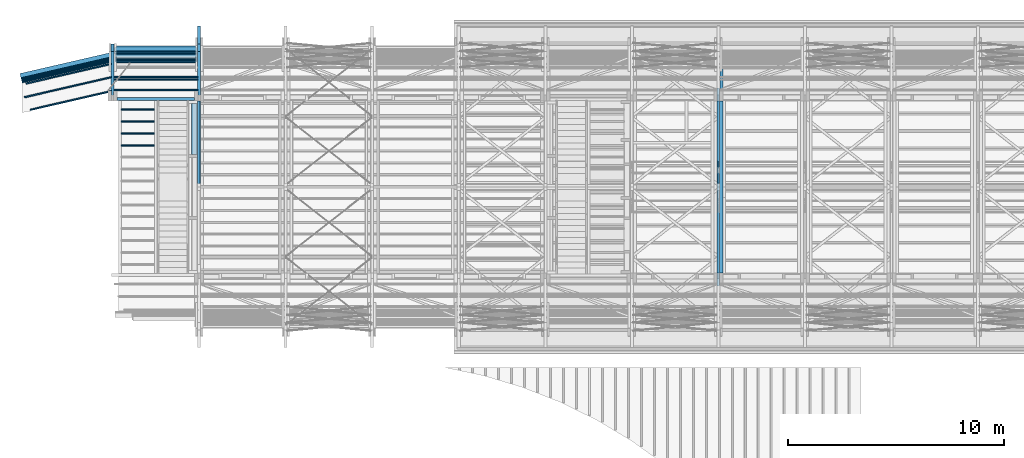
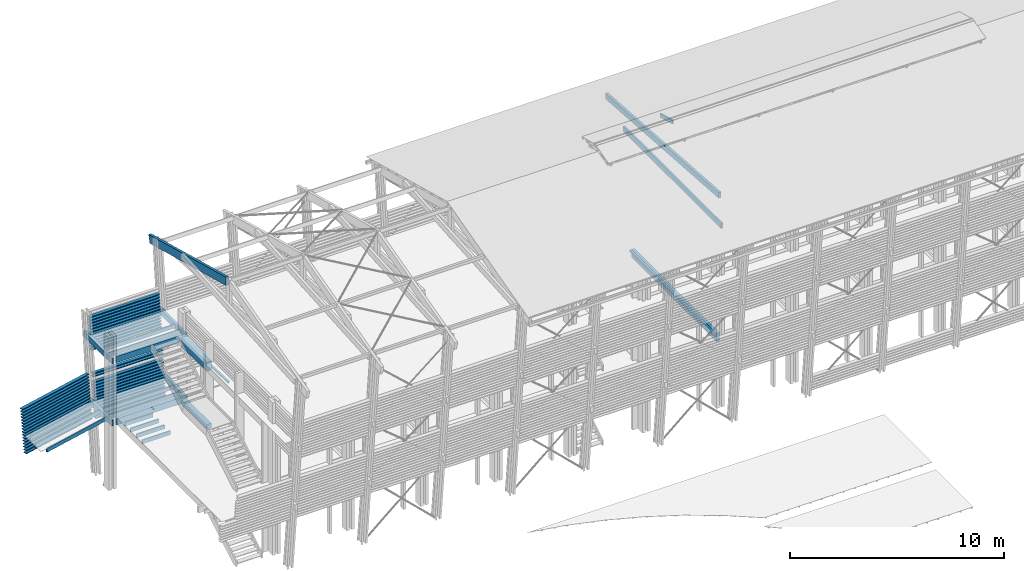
# One storey, part 11 of 48: 69 beams.
"""IFC2X3 building model written with IfcOpenShell, lengths in metres."""

from ifc_helpers import new_model, si_unit, direction, frame, origin_with_axes, place, context, subcontext, project, spatial, faceted_brep, material, element, save


model = new_model("IFC2X3")

# Units and contexts
model_context = context("Model", 3, precision=1e-06, world=origin_with_axes(), true_north=direction((0.0, 1.0, 0.0)))
body_context = subcontext(model_context, "Body", "Model", "MODEL_VIEW")
ifc_project = project(units=[si_unit("LENGTHUNIT", "METRE"), si_unit("AREAUNIT", "SQUARE_METRE"), si_unit("VOLUMEUNIT", "CUBIC_METRE"), si_unit("PLANEANGLEUNIT", "RADIAN")], contexts=[model_context])

# Site, building, storey
site_placement = place(None, origin_with_axes())
site = spatial("IfcSite", under=ifc_project, at=site_placement, CompositionType="ELEMENT")
building_placement = place(site_placement, origin_with_axes())
building = spatial("IfcBuilding", under=site, at=building_placement, Name="Building 1", CompositionType="ELEMENT")
storey_placement = place(building_placement, origin_with_axes())
storey = spatial("IfcBuildingStorey", under=building, at=storey_placement, Name="Storey 1", CompositionType="ELEMENT", Elevation=0.0)

# Beams
ifc_material_1 = material(Name="Moabi")
beam_1_placement = place(storey_placement, frame((25.3927439, -183.1715493, 5.1686208), z_axis=(0.0, -0.9945219, 0.1045285), x_axis=(-1.0, 0.0, 0.0)))
element("IfcBeam", 1, at=beam_1_placement, inside=storey, material=ifc_material_1, Name="garde corp", context=body_context, shape_type="Brep", body=[
    faceted_brep([(3.8048053, -0.02, 0.1), (3.8048053, 0.02, 0.1), (0.0, 0.02, 0.1), (0.0, -0.02, 0.1), (3.8048051, 0.02, -0.1), (0.0, 0.02, -0.1), (3.8048053, -0.02, -0.1), (0.0, -0.02, -0.1)], [[[0, 1, 2, 3]], [[1, 4, 5, 2]], [[4, 6, 7, 5]], [[6, 0, 3, 7]], [[1, 0, 6, 4]], [[7, 3, 2, 5]]]),
])
beam_2_placement = place(storey_placement, frame((21.3596863, -183.1274403, 5.53022), z_axis=(0.2237806, -0.9693004, 0.1018776), x_axis=(-0.9743701, -0.2249511, 0.0)))
element("IfcBeam", 2, at=beam_2_placement, inside=storey, material=ifc_material_1, Name="garde corp", context=body_context, shape_type="Brep", body=[
    faceted_brep([(4.2355511, -0.02, 0.1), (4.2355511, 0.02, 0.1), (0.0, 0.02, 0.1), (0.0, -0.02, 0.1), (4.2355511, 0.02, -0.1), (0.0, 0.02, -0.1), (4.2355511, -0.02, -0.1), (0.0, -0.02, -0.1)], [[[0, 1, 2, 3]], [[1, 4, 5, 2]], [[4, 6, 7, 5]], [[6, 0, 3, 7]], [[1, 0, 6, 4]], [[7, 3, 2, 5]]]),
])
beam_3_placement = place(storey_placement, frame((25.3927439, -183.221723, 4.6912503), z_axis=(0.0, -0.9945219, 0.1045285), x_axis=(-1.0, 0.0, 0.0)))
element("IfcBeam", 3, at=beam_3_placement, inside=storey, material=ifc_material_1, Name="garde corp", context=body_context, shape_type="Brep", body=[
    faceted_brep([(3.8047071, -0.02, 0.1), (3.8047079, 0.02, 0.1), (0.0, 0.02, 0.1), (0.0, -0.02, 0.1), (3.8047071, 0.02, -0.1), (0.0, 0.02, -0.1), (3.8047071, -0.02, -0.1), (0.0, -0.02, -0.1)], [[[0, 1, 2, 3]], [[1, 4, 5, 2]], [[4, 6, 7, 5]], [[6, 0, 3, 7]], [[1, 0, 6, 4]], [[7, 3, 2, 5]]]),
])
beam_4_placement = place(storey_placement, frame((25.3927441, -182.9039564, 7.7145968), z_axis=(0.0, -0.9945219, 0.1045285), x_axis=(-1.0, 0.0, 0.0)))
element("IfcBeam", 4, at=beam_4_placement, inside=storey, material=ifc_material_1, Name="garde corp", context=body_context, shape_type="Brep", body=[
    faceted_brep([(3.8190008, 0.02, 0.1), (3.8190008, 0.02, -0.1), (0.0, 0.02, -0.1), (0.0, 0.02, 0.1), (3.8190008, -0.02, -0.1), (0.0, -0.02, -0.1), (3.8190008, -0.02, 0.1), (0.0, -0.02, 0.1)], [[[0, 1, 2, 3]], [[1, 4, 5, 2]], [[4, 6, 7, 5]], [[6, 0, 3, 7]], [[0, 6, 4, 1]], [[5, 7, 3, 2]]]),
])
for number, where, z_axis, x_axis, name in (
    (5, (21.4123572, -183.355583, 3.3024909), (0.2237806, -0.9693004, 0.1018776), (-0.9743701, -0.2249511, 0.0), "garde corp"),
    (6, (21.389784, -183.2578075, 4.2572319), (0.2237806, -0.9693004, 0.1018776), (-0.9743701, -0.2249511, 0.0), "garde corp"),
    (7, (21.3973084, -183.2903993, 3.9389849), (0.2237806, -0.9693004, 0.1018776), (-0.9743701, -0.2249511, 0.0), "garde corp"),
    (8, (21.3935462, -183.2741034, 4.0981084), (0.2237806, -0.9693004, 0.1018776), (-0.9743701, -0.2249511, 0.0), "garde corp"),
):
    element("IfcBeam", number, at=place(storey_placement, frame(where, z_axis=z_axis, x_axis=x_axis)), inside=storey, material=ifc_material_1, Name=name, context=body_context, shape_type="Brep", body=[
        faceted_brep([(4.2355511, -0.02, 0.1), (4.2355511, 0.02, 0.1), (0.0, 0.02, 0.1), (0.0, -0.02, 0.1), (4.2355511, 0.02, -0.1), (0.0, 0.02, -0.1), (4.2355511, -0.02, -0.1), (0.0, -0.02, -0.1)], [[[0, 1, 2, 3]], [[1, 4, 5, 2]], [[4, 6, 7, 5]], [[6, 0, 3, 7]], [[1, 0, 6, 4]], [[7, 3, 2, 5]]]),
    ])
beam_5_placement = place(storey_placement, frame((25.3927439, -183.3220703, 3.7365093), z_axis=(0.0, -0.9945219, 0.1045285), x_axis=(-1.0, 0.0, 0.0)))
element("IfcBeam", 9, at=beam_5_placement, inside=storey, material=ifc_material_1, Name="garde corp", context=body_context, shape_type="Brep", body=[
    faceted_brep([(3.8047073, -0.02, 0.1), (3.8047077, 0.02, 0.1), (0.0, 0.02, 0.1), (0.0, -0.02, 0.1), (3.8047077, 0.02, -0.1), (0.0, 0.02, -0.1), (3.8047077, -0.02, -0.1), (0.0, -0.02, -0.1)], [[[0, 1, 2, 3]], [[1, 4, 5, 2]], [[4, 6, 7, 5]], [[6, 0, 3, 7]], [[1, 0, 6, 4]], [[7, 3, 2, 5]]]),
])
beam_6_placement = place(storey_placement, frame((25.3927441, -182.9541301, 7.2372263), z_axis=(0.0, -0.9945219, 0.1045285), x_axis=(-1.0, 0.0, 0.0)))
element("IfcBeam", 10, at=beam_6_placement, inside=storey, material=ifc_material_1, Name="garde corp", context=body_context, shape_type="Brep", body=[
    faceted_brep([(3.8190008, 0.02, 0.1), (3.8190008, 0.02, -0.1), (0.0, 0.02, -0.1), (0.0, 0.02, 0.1), (3.8190008, -0.02, -0.1), (0.0, -0.02, -0.1), (3.8190008, -0.02, 0.1), (0.0, -0.02, 0.1)], [[[0, 1, 2, 3]], [[1, 4, 5, 2]], [[4, 6, 7, 5]], [[6, 0, 3, 7]], [[0, 6, 4, 1]], [[5, 7, 3, 2]]]),
])
beam_7_placement = place(storey_placement, frame((25.3927437, -182.8036091, 8.6693379), z_axis=(0.0, -0.9945219, 0.1045285), x_axis=(-1.0, 0.0, 0.0)))
element("IfcBeam", 11, at=beam_7_placement, inside=storey, material=ifc_material_1, Name="garde corp", context=body_context, shape_type="Brep", body=[
    faceted_brep([(3.8190004, 0.02, 0.1), (3.8190008, 0.02, -0.1), (0.0, 0.02, -0.1), (0.0, 0.02, 0.1), (3.8190004, -0.02, -0.1), (0.0, -0.02, -0.1), (3.8190008, -0.02, 0.1), (0.0, -0.02, 0.1)], [[[0, 1, 2, 3]], [[1, 4, 5, 2]], [[4, 6, 7, 5]], [[6, 0, 3, 7]], [[0, 6, 4, 1]], [[5, 7, 3, 2]]]),
])
beam_8_placement = place(storey_placement, frame((25.3927439, -183.1213756, 5.6459913), z_axis=(0.0, -0.9945219, 0.1045285), x_axis=(-1.0, 0.0, 0.0)))
element("IfcBeam", 12, at=beam_8_placement, inside=storey, material=ifc_material_1, Name="garde corp", context=body_context, shape_type="Brep", body=[
    faceted_brep([(3.8048053, -0.02, 0.1), (3.8048053, 0.02, 0.1), (0.0, 0.02, 0.1), (0.0, -0.02, 0.1), (3.8048051, 0.02, -0.1), (0.0, 0.02, -0.1), (3.8048053, -0.02, -0.1), (0.0, -0.02, -0.1)], [[[0, 1, 2, 3]], [[1, 4, 5, 2]], [[4, 6, 7, 5]], [[6, 0, 3, 7]], [[1, 0, 6, 4]], [[7, 3, 2, 5]]]),
])
beam_9_placement = place(storey_placement, frame((25.3927441, -182.920681, 7.5554733), z_axis=(0.0, -0.9945219, 0.1045285), x_axis=(-1.0, 0.0, 0.0)))
element("IfcBeam", 13, at=beam_9_placement, inside=storey, material=ifc_material_1, Name="garde corp", context=body_context, shape_type="Brep", body=[
    faceted_brep([(3.8190008, 0.02, 0.1), (3.8190008, 0.02, -0.1), (0.0, 0.02, -0.1), (0.0, 0.02, 0.1), (3.8190008, -0.02, -0.1), (0.0, -0.02, -0.1), (3.8190008, -0.02, 0.1), (0.0, -0.02, 0.1)], [[[0, 1, 2, 3]], [[1, 4, 5, 2]], [[4, 6, 7, 5]], [[6, 0, 3, 7]], [[0, 6, 4, 1]], [[5, 7, 3, 2]]]),
])
beam_10_placement = place(storey_placement, frame((25.3927439, -183.3387948, 3.5773858), z_axis=(0.0, -0.9945219, 0.1045285), x_axis=(-1.0, 0.0, 0.0)))
element("IfcBeam", 14, at=beam_10_placement, inside=storey, material=ifc_material_1, Name="garde corp", context=body_context, shape_type="Brep", body=[
    faceted_brep([(3.8047077, -0.02, 0.1), (3.8047077, 0.02, 0.1), (0.0, 0.02, 0.1), (0.0, -0.02, 0.1), (3.8047077, 0.02, -0.1), (0.0, 0.02, -0.1), (3.8047077, -0.02, -0.1), (0.0, -0.02, -0.1)], [[[0, 1, 2, 3]], [[1, 4, 5, 2]], [[4, 6, 7, 5]], [[6, 0, 3, 7]], [[1, 0, 6, 4]], [[7, 3, 2, 5]]]),
])
beam_11_placement = place(storey_placement, frame((25.3927441, -182.8537828, 8.1919674), z_axis=(0.0, -0.9945219, 0.1045285), x_axis=(-1.0, 0.0, 0.0)))
element("IfcBeam", 15, at=beam_11_placement, inside=storey, material=ifc_material_1, Name="garde corp", context=body_context, shape_type="Brep", body=[
    faceted_brep([(3.8190008, 0.02, 0.1), (3.8190008, 0.02, -0.1), (0.0, 0.02, -0.1), (0.0, 0.02, 0.1), (3.8190008, -0.02, -0.1), (0.0, -0.02, -0.1), (3.8190008, -0.02, 0.1), (0.0, -0.02, 0.1)], [[[0, 1, 2, 3]], [[1, 4, 5, 2]], [[4, 6, 7, 5]], [[6, 0, 3, 7]], [[0, 6, 4, 1]], [[5, 7, 3, 2]]]),
])
for number, where, z_axis, x_axis, name in (
    (16, (21.3822596, -183.2252157, 4.5754789), (0.2237806, -0.9693004, 0.1018776), (-0.9743701, -0.2249511, 0.0), "garde corp"),
    (17, (21.3634485, -183.1437362, 5.3710965), (0.2237806, -0.9693004, 0.1018776), (-0.9743701, -0.2249511, 0.0), "garde corp"),
):
    element("IfcBeam", number, at=place(storey_placement, frame(where, z_axis=z_axis, x_axis=x_axis)), inside=storey, material=ifc_material_1, Name=name, context=body_context, shape_type="Brep", body=[
        faceted_brep([(4.2355511, -0.02, 0.1), (4.2355511, 0.02, 0.1), (0.0, 0.02, 0.1), (0.0, -0.02, 0.1), (4.2355511, 0.02, -0.1), (0.0, 0.02, -0.1), (4.2355511, -0.02, -0.1), (0.0, -0.02, -0.1)], [[[0, 1, 2, 3]], [[1, 4, 5, 2]], [[4, 6, 7, 5]], [[6, 0, 3, 7]], [[1, 0, 6, 4]], [[7, 3, 2, 5]]]),
    ])
for number, where, z_axis, x_axis, name in (
    (18, (25.3927441, -182.8370582, 8.3510909), (0.0, -0.9945219, 0.1045285), (-1.0, 0.0, 0.0), "garde corp"),
    (19, (25.3927441, -182.8872319, 7.8737203), (0.0, -0.9945219, 0.1045285), (-1.0, 0.0, 0.0), "garde corp"),
):
    element("IfcBeam", number, at=place(storey_placement, frame(where, z_axis=z_axis, x_axis=x_axis)), inside=storey, material=ifc_material_1, Name=name, context=body_context, shape_type="Brep", body=[
        faceted_brep([(3.8190008, 0.02, 0.1), (3.8190008, 0.02, -0.1), (0.0, 0.02, -0.1), (0.0, 0.02, 0.1), (3.8190008, -0.02, -0.1), (0.0, -0.02, -0.1), (3.8190008, -0.02, 0.1), (0.0, -0.02, 0.1)], [[[0, 1, 2, 3]], [[1, 4, 5, 2]], [[4, 6, 7, 5]], [[6, 0, 3, 7]], [[0, 6, 4, 1]], [[5, 7, 3, 2]]]),
    ])
for number, where, z_axis, x_axis, name in (
    (20, (21.3747352, -183.1926239, 4.8937259), (0.2237806, -0.9693004, 0.1018776), (-0.9743701, -0.2249511, 0.0), "garde corp"),
    (21, (21.4048328, -183.3229911, 3.6207379), (0.2237806, -0.9693004, 0.1018776), (-0.9743701, -0.2249511, 0.0), "garde corp"),
):
    element("IfcBeam", number, at=place(storey_placement, frame(where, z_axis=z_axis, x_axis=x_axis)), inside=storey, material=ifc_material_1, Name=name, context=body_context, shape_type="Brep", body=[
        faceted_brep([(4.2355511, -0.02, 0.1), (4.2355511, 0.02, 0.1), (0.0, 0.02, 0.1), (0.0, -0.02, 0.1), (4.2355511, 0.02, -0.1), (0.0, 0.02, -0.1), (4.2355511, -0.02, -0.1), (0.0, -0.02, -0.1)], [[[0, 1, 2, 3]], [[1, 4, 5, 2]], [[4, 6, 7, 5]], [[6, 0, 3, 7]], [[1, 0, 6, 4]], [[7, 3, 2, 5]]]),
    ])
beam_12_placement = place(storey_placement, frame((25.3927439, -183.1381002, 5.4868678), z_axis=(0.0, -0.9945219, 0.1045285), x_axis=(-1.0, 0.0, 0.0)))
element("IfcBeam", 22, at=beam_12_placement, inside=storey, material=ifc_material_1, Name="garde corp", context=body_context, shape_type="Brep", body=[
    faceted_brep([(3.8047071, -0.02, 0.1), (3.8047079, 0.02, 0.1), (0.0, 0.02, 0.1), (0.0, -0.02, 0.1), (3.8047077, 0.02, -0.1), (0.0, 0.02, -0.1), (3.8047071, -0.02, -0.1), (0.0, -0.02, -0.1)], [[[0, 1, 2, 3]], [[1, 4, 5, 2]], [[4, 6, 7, 5]], [[6, 0, 3, 7]], [[1, 0, 6, 4]], [[7, 3, 2, 5]]]),
])
beam_13_placement = place(storey_placement, frame((21.3672108, -183.1600321, 5.2119729), z_axis=(0.2237806, -0.9693004, 0.1018776), x_axis=(-0.9743701, -0.2249511, 0.0)))
element("IfcBeam", 23, at=beam_13_placement, inside=storey, material=ifc_material_1, Name="garde corp", context=body_context, shape_type="Brep", body=[
    faceted_brep([(4.2355511, -0.02, 0.1), (4.2355511, 0.02, 0.1), (0.0, 0.02, 0.1), (0.0, -0.02, 0.1), (4.2355511, 0.02, -0.1), (0.0, 0.02, -0.1), (4.2355511, -0.02, -0.1), (0.0, -0.02, -0.1)], [[[0, 1, 2, 3]], [[1, 4, 5, 2]], [[4, 6, 7, 5]], [[6, 0, 3, 7]], [[1, 0, 6, 4]], [[7, 3, 2, 5]]]),
])
beam_14_placement = place(storey_placement, frame((25.3927439, -183.2551721, 4.3730033), z_axis=(0.0, -0.9945219, 0.1045285), x_axis=(-1.0, 0.0, 0.0)))
element("IfcBeam", 24, at=beam_14_placement, inside=storey, material=ifc_material_1, Name="garde corp", context=body_context, shape_type="Brep", body=[
    faceted_brep([(3.8048051, -0.02, 0.1), (3.8048051, 0.02, 0.1), (0.0, 0.02, 0.1), (0.0, -0.02, 0.1), (3.8048051, 0.02, -0.1), (0.0, 0.02, -0.1), (3.8048051, -0.02, -0.1), (0.0, -0.02, -0.1)], [[[0, 1, 2, 3]], [[1, 4, 5, 2]], [[4, 6, 7, 5]], [[6, 0, 3, 7]], [[1, 0, 6, 4]], [[7, 3, 2, 5]]]),
])
beam_15_placement = place(storey_placement, frame((21.3784974, -183.2089198, 4.7346024), z_axis=(0.2237806, -0.9693004, 0.1018776), x_axis=(-0.9743701, -0.2249511, 0.0)))
element("IfcBeam", 25, at=beam_15_placement, inside=storey, material=ifc_material_1, Name="garde corp", context=body_context, shape_type="Brep", body=[
    faceted_brep([(4.2355511, -0.02, 0.1), (4.2355511, 0.02, 0.1), (0.0, 0.02, 0.1), (0.0, -0.02, 0.1), (4.2355511, 0.02, -0.1), (0.0, 0.02, -0.1), (4.2355511, -0.02, -0.1), (0.0, -0.02, -0.1)], [[[0, 1, 2, 3]], [[1, 4, 5, 2]], [[4, 6, 7, 5]], [[6, 0, 3, 7]], [[1, 0, 6, 4]], [[7, 3, 2, 5]]]),
])
beam_16_placement = place(storey_placement, frame((25.3927441, -182.9374055, 7.3963498), z_axis=(0.0, -0.9945219, 0.1045285), x_axis=(-1.0, 0.0, 0.0)))
element("IfcBeam", 26, at=beam_16_placement, inside=storey, material=ifc_material_1, Name="garde corp", context=body_context, shape_type="Brep", body=[
    faceted_brep([(3.8190008, 0.02, 0.1), (3.8190008, 0.02, -0.1), (0.0, 0.02, -0.1), (0.0, 0.02, 0.1), (3.8190008, -0.02, -0.1), (0.0, -0.02, -0.1), (3.8190008, -0.02, 0.1), (0.0, -0.02, 0.1)], [[[0, 1, 2, 3]], [[1, 4, 5, 2]], [[4, 6, 7, 5]], [[6, 0, 3, 7]], [[0, 6, 4, 1]], [[5, 7, 3, 2]]]),
])
beam_17_placement = place(storey_placement, frame((25.3927439, -183.1882738, 5.0094973), z_axis=(0.0, -0.9945219, 0.1045285), x_axis=(-1.0, 0.0, 0.0)))
element("IfcBeam", 27, at=beam_17_placement, inside=storey, material=ifc_material_1, Name="garde corp", context=body_context, shape_type="Brep", body=[
    faceted_brep([(3.8047077, -0.02, 0.1), (3.8047077, 0.02, 0.1), (0.0, 0.02, 0.1), (0.0, -0.02, 0.1), (3.8047077, 0.02, -0.1), (0.0, 0.02, -0.1), (3.8047077, -0.02, -0.1), (0.0, -0.02, -0.1)], [[[0, 1, 2, 3]], [[1, 4, 5, 2]], [[4, 6, 7, 5]], [[6, 0, 3, 7]], [[1, 0, 6, 4]], [[7, 3, 2, 5]]]),
])
for number, where, z_axis, x_axis, name in (
    (28, (21.4010706, -183.3066952, 3.7798614), (0.2237806, -0.9693004, 0.1018776), (-0.9743701, -0.2249511, 0.0), "garde corp"),
    (29, (21.3860218, -183.2415116, 4.4163554), (0.2237806, -0.9693004, 0.1018776), (-0.9743701, -0.2249511, 0.0), "garde corp"),
):
    element("IfcBeam", number, at=place(storey_placement, frame(where, z_axis=z_axis, x_axis=x_axis)), inside=storey, material=ifc_material_1, Name=name, context=body_context, shape_type="Brep", body=[
        faceted_brep([(4.2355511, -0.02, 0.1), (4.2355511, 0.02, 0.1), (0.0, 0.02, 0.1), (0.0, -0.02, 0.1), (4.2355511, 0.02, -0.1), (0.0, 0.02, -0.1), (4.2355511, -0.02, -0.1), (0.0, -0.02, -0.1)], [[[0, 1, 2, 3]], [[1, 4, 5, 2]], [[4, 6, 7, 5]], [[6, 0, 3, 7]], [[1, 0, 6, 4]], [[7, 3, 2, 5]]]),
    ])
for number, where, z_axis, x_axis, name in (
    (30, (25.3927441, -182.9708546, 7.0781028), (0.0, -0.9945219, 0.1045285), (-1.0, 0.0, 0.0), "garde corp"),
    (31, (25.3927441, -182.8203337, 8.5102144), (0.0, -0.9945219, 0.1045285), (-1.0, 0.0, 0.0), "garde corp"),
    (32, (25.3927441, -182.9875792, 6.9189793), (0.0, -0.9945219, 0.1045285), (-1.0, 0.0, 0.0), "garde corp"),
):
    element("IfcBeam", number, at=place(storey_placement, frame(where, z_axis=z_axis, x_axis=x_axis)), inside=storey, material=ifc_material_1, Name=name, context=body_context, shape_type="Brep", body=[
        faceted_brep([(3.8190008, 0.02, 0.1), (3.8190008, 0.02, -0.1), (0.0, 0.02, -0.1), (0.0, 0.02, 0.1), (3.8190008, -0.02, -0.1), (0.0, -0.02, -0.1), (3.8190008, -0.02, 0.1), (0.0, -0.02, 0.1)], [[[0, 1, 2, 3]], [[1, 4, 5, 2]], [[4, 6, 7, 5]], [[6, 0, 3, 7]], [[0, 6, 4, 1]], [[5, 7, 3, 2]]]),
    ])
beam_18_placement = place(storey_placement, frame((25.3927439, -183.3722439, 3.2591388), z_axis=(0.0, -0.9945219, 0.1045285), x_axis=(-1.0, 0.0, 0.0)))
element("IfcBeam", 33, at=beam_18_placement, inside=storey, material=ifc_material_1, Name="garde corp", context=body_context, shape_type="Brep", body=[
    faceted_brep([(3.8048051, -0.02, 0.1), (3.8048051, 0.02, 0.1), (0.0, 0.02, 0.1), (0.0, -0.02, 0.1), (3.8048051, 0.02, -0.1), (0.0, 0.02, -0.1), (3.8048051, -0.02, -0.1), (0.0, -0.02, -0.1)], [[[0, 1, 2, 3]], [[1, 4, 5, 2]], [[4, 6, 7, 5]], [[6, 0, 3, 7]], [[1, 0, 6, 4]], [[7, 3, 2, 5]]]),
])
beam_19_placement = place(storey_placement, frame((25.3927439, -183.3053457, 3.8956328), z_axis=(0.0, -0.9945219, 0.1045285), x_axis=(-1.0, 0.0, 0.0)))
element("IfcBeam", 34, at=beam_19_placement, inside=storey, material=ifc_material_1, Name="garde corp", context=body_context, shape_type="Brep", body=[
    faceted_brep([(3.8047073, -0.02, 0.1), (3.8047075, 0.02, 0.1), (0.0, 0.02, 0.1), (0.0, -0.02, 0.1), (3.8047077, 0.02, -0.1), (0.0, 0.02, -0.1), (3.8047077, -0.02, -0.1), (0.0, -0.02, -0.1)], [[[0, 1, 2, 3]], [[1, 4, 5, 2]], [[4, 6, 7, 5]], [[6, 0, 3, 7]], [[1, 0, 6, 4]], [[7, 3, 2, 5]]]),
])
beam_20_placement = place(storey_placement, frame((25.3927439, -183.3555194, 3.4182623), z_axis=(0.0, -0.9945219, 0.1045285), x_axis=(-1.0, 0.0, 0.0)))
element("IfcBeam", 35, at=beam_20_placement, inside=storey, material=ifc_material_1, Name="garde corp", context=body_context, shape_type="Brep", body=[
    faceted_brep([(3.8047073, -0.02, 0.1), (3.8047077, 0.02, 0.1), (0.0, 0.02, 0.1), (0.0, -0.02, 0.1), (3.8047077, 0.02, -0.1), (0.0, 0.02, -0.1), (3.8047077, -0.02, -0.1), (0.0, -0.02, -0.1)], [[[0, 1, 2, 3]], [[1, 4, 5, 2]], [[4, 6, 7, 5]], [[6, 0, 3, 7]], [[1, 0, 6, 4]], [[7, 3, 2, 5]]]),
])
beam_21_placement = place(storey_placement, frame((25.3927437, -182.8705073, 8.0328439), z_axis=(0.0, -0.9945219, 0.1045285), x_axis=(-1.0, 0.0, 0.0)))
element("IfcBeam", 36, at=beam_21_placement, inside=storey, material=ifc_material_1, Name="garde corp", context=body_context, shape_type="Brep", body=[
    faceted_brep([(3.8190004, 0.02, 0.1), (3.8190008, 0.02, -0.1), (0.0, 0.02, -0.1), (0.0, 0.02, 0.1), (3.8190004, -0.02, -0.1), (0.0, -0.02, -0.1), (3.8190008, -0.02, 0.1), (0.0, -0.02, 0.1)], [[[0, 1, 2, 3]], [[1, 4, 5, 2]], [[4, 6, 7, 5]], [[6, 0, 3, 7]], [[0, 6, 4, 1]], [[5, 7, 3, 2]]]),
])
for number, where, z_axis, x_axis, name in (
    (37, (21.370973, -183.176328, 5.0528494), (0.2237806, -0.9693004, 0.1018776), (-0.9743701, -0.2249511, 0.0), "garde corp"),
    (38, (21.408595, -183.339287, 3.4616144), (0.2237806, -0.9693004, 0.1018776), (-0.9743701, -0.2249511, 0.0), "garde corp"),
    (39, (21.3559241, -183.1111444, 5.6893435), (0.2237806, -0.9693004, 0.1018776), (-0.9743701, -0.2249511, 0.0), "garde corp"),
):
    element("IfcBeam", number, at=place(storey_placement, frame(where, z_axis=z_axis, x_axis=x_axis)), inside=storey, material=ifc_material_1, Name=name, context=body_context, shape_type="Brep", body=[
        faceted_brep([(4.2355511, -0.02, 0.1), (4.2355511, 0.02, 0.1), (0.0, 0.02, 0.1), (0.0, -0.02, 0.1), (4.2355511, 0.02, -0.1), (0.0, 0.02, -0.1), (4.2355511, -0.02, -0.1), (0.0, -0.02, -0.1)], [[[0, 1, 2, 3]], [[1, 4, 5, 2]], [[4, 6, 7, 5]], [[6, 0, 3, 7]], [[1, 0, 6, 4]], [[7, 3, 2, 5]]]),
    ])
for number, where, z_axis, x_axis, name in (
    (40, (25.3927439, -183.2718966, 4.2138798), (0.0, -0.9945219, 0.1045285), (-1.0, 0.0, 0.0), "garde corp"),
    (41, (25.3927439, -183.2886212, 4.0547563), (0.0, -0.9945219, 0.1045285), (-1.0, 0.0, 0.0), "garde corp"),
):
    element("IfcBeam", number, at=place(storey_placement, frame(where, z_axis=z_axis, x_axis=x_axis)), inside=storey, material=ifc_material_1, Name=name, context=body_context, shape_type="Brep", body=[
        faceted_brep([(3.8048051, -0.02, 0.1), (3.8048051, 0.02, 0.1), (0.0, 0.02, 0.1), (0.0, -0.02, 0.1), (3.8048051, 0.02, -0.1), (0.0, 0.02, -0.1), (3.8048051, -0.02, -0.1), (0.0, -0.02, -0.1)], [[[0, 1, 2, 3]], [[1, 4, 5, 2]], [[4, 6, 7, 5]], [[6, 0, 3, 7]], [[1, 0, 6, 4]], [[7, 3, 2, 5]]]),
    ])
beam_22_placement = place(storey_placement, frame((25.3927439, -183.2049984, 4.8503738), z_axis=(0.0, -0.9945219, 0.1045285), x_axis=(-1.0, 0.0, 0.0)))
element("IfcBeam", 42, at=beam_22_placement, inside=storey, material=ifc_material_1, Name="garde corp", context=body_context, shape_type="Brep", body=[
    faceted_brep([(3.8048053, -0.02, 0.1), (3.8048053, 0.02, 0.1), (0.0, 0.02, 0.1), (0.0, -0.02, 0.1), (3.8048051, 0.02, -0.1), (0.0, 0.02, -0.1), (3.8048053, -0.02, -0.1), (0.0, -0.02, -0.1)], [[[0, 1, 2, 3]], [[1, 4, 5, 2]], [[4, 6, 7, 5]], [[6, 0, 3, 7]], [[1, 0, 6, 4]], [[7, 3, 2, 5]]]),
])
beam_23_placement = place(storey_placement, frame((25.3927439, -183.2384475, 4.5321268), z_axis=(0.0, -0.9945219, 0.1045285), x_axis=(-1.0, 0.0, 0.0)))
element("IfcBeam", 43, at=beam_23_placement, inside=storey, material=ifc_material_1, Name="garde corp", context=body_context, shape_type="Brep", body=[
    faceted_brep([(3.8047077, -0.02, 0.1), (3.8047077, 0.02, 0.1), (0.0, 0.02, 0.1), (0.0, -0.02, 0.1), (3.8047077, 0.02, -0.1), (0.0, 0.02, -0.1), (3.8047077, -0.02, -0.1), (0.0, -0.02, -0.1)], [[[0, 1, 2, 3]], [[1, 4, 5, 2]], [[4, 6, 7, 5]], [[6, 0, 3, 7]], [[1, 0, 6, 4]], [[7, 3, 2, 5]]]),
])
ifc_material_2 = material(Name="GL28h")
beam_24_placement = place(storey_placement, frame((17.6781, -185.6433285, 4.139), z_axis=(0.0, 0.0, 1.0), x_axis=(0.9743701, 0.2249511, 0.0)))
element("IfcBeam", 44, at=beam_24_placement, inside=storey, material=ifc_material_2, Name="Solive", context=body_context, shape_type="Brep", body=[
    faceted_brep([(3.831984, -0.035, -0.11), (3.8481447, 0.035, -0.11), (3.8481447, 0.035, 0.11), (3.831984, -0.035, 0.11), (0.0, 0.035, -0.11), (0.0, 0.035, 0.11), (0.0, -0.035, -0.11), (0.0, -0.035, 0.11)], [[[0, 1, 2, 3]], [[2, 1, 4, 5]], [[1, 0, 6, 4]], [[0, 3, 7, 6]], [[3, 2, 5, 7]], [[7, 5, 4, 6]]]),
])
for number, where, z_axis, x_axis in (
    (45, (21.5597437, -184.7314881, 4.139), (0.0, 0.0, 1.0), (1.0, 0.0, 0.0)),
    (46, (21.5597437, -184.1344693, 4.139), (0.0, 0.0, 1.0), (1.0, 0.0, 0.0)),
):
    element("IfcBeam", number, at=place(storey_placement, frame(where, z_axis=z_axis, x_axis=x_axis)), inside=storey, material=ifc_material_2, Name="Solive", context=body_context, shape_type="Brep", body=[
        faceted_brep([(3.86, 0.035, 0.11), (3.86, 0.035, -0.11), (0.0, 0.035, -0.11), (0.0, 0.035, 0.11), (3.86, -0.035, -0.11), (0.0, -0.035, -0.11), (3.86, -0.035, 0.11), (0.0, -0.035, 0.11)], [[[0, 1, 2, 3]], [[1, 4, 5, 2]], [[4, 6, 7, 5]], [[6, 0, 3, 7]], [[1, 0, 6, 4]], [[7, 3, 2, 5]]]),
    ])
beam_25_placement = place(storey_placement, frame((25.2697437, -185.3464881, 7.53), z_axis=(0.0, 0.0, 1.0), x_axis=(0.0, -1.0, 0.0)))
element("IfcBeam", 47, at=beam_25_placement, inside=storey, material=ifc_material_2, Name="Buton", context=body_context, shape_type="Brep", body=[
    faceted_brep([(0.0, -0.13, -0.26), (0.0, -0.13, 0.26), (0.0, 0.13, 0.26), (0.0, 0.13, -0.26), (2.3515817, 0.13, -0.26), (2.3515817, -0.13, -0.26), (2.3515817, -0.13, 0.26), (2.3515817, 0.13, 0.26)], [[[0, 1, 2, 3]], [[4, 5, 0, 3]], [[5, 6, 1, 0]], [[7, 4, 3, 2]], [[6, 7, 2, 1]], [[7, 6, 5, 4]]]),
])
beam_26_placement = place(storey_placement, frame((25.2697437, -185.3464885, 4.085), z_axis=(0.0, 0.0, 1.0), x_axis=(0.0, -1.0, 0.0)))
element("IfcBeam", 48, at=beam_26_placement, inside=storey, material=ifc_material_2, Name="Buton", context=body_context, shape_type="Brep", body=[
    faceted_brep([(2.3515817, 0.13, -0.13), (2.3515817, 0.13, 0.13), (2.3515817, -0.13, 0.13), (2.3515817, -0.13, -0.13), (0.0, -0.13, -0.13), (0.0, 0.13, -0.13), (0.0, -0.13, 0.13), (0.0, 0.13, 0.13)], [[[0, 1, 2, 3]], [[0, 3, 4, 5]], [[3, 2, 6, 4]], [[1, 0, 5, 7]], [[2, 1, 7, 6]], [[5, 4, 6, 7]]]),
])
beam_27_placement = place(storey_placement, frame((25.4697437, -189.2095691, 7.4500014), z_axis=(0.0, 0.0299865, 0.9995503), x_axis=(0.0, 0.9995503, -0.0299865)))
element("IfcBeam", 49, at=beam_27_placement, inside=storey, material=ifc_material_2, Name="Sous-glace", context=body_context, shape_type="Brep", body=[
    faceted_brep([(0.0, -0.05, 0.05), (0.003, -0.05, -0.05), (4.006373, -0.05, -0.05), (4.003373, -0.05, 0.05), (4.003373, 0.05, 0.05), (0.0, 0.05, 0.05), (0.003, 0.05, -0.05), (4.006373, 0.05, -0.05)], [[[0, 1, 2, 3]], [[3, 4, 5, 0]], [[6, 5, 4, 7]], [[1, 6, 7, 2]], [[5, 6, 1, 0]], [[2, 7, 4, 3]]]),
])
beam_28_placement = place(storey_placement, frame((21.6997437, -185.1364881, 7.629), z_axis=(0.0, 0.0, 1.0), x_axis=(1.0, 0.0, 0.0)))
element("IfcBeam", 50, at=beam_28_placement, inside=storey, material=ifc_material_2, Name="Sommier", context=body_context, shape_type="Brep", body=[
    faceted_brep([(3.58, 0.07, 0.18), (3.58, 0.07, -0.18), (0.0, 0.07, -0.18), (0.0, 0.07, 0.18), (3.58, -0.07, -0.18), (0.0, -0.07, -0.18), (3.58, -0.07, 0.18), (0.0, -0.07, 0.18)], [[[0, 1, 2, 3]], [[1, 4, 5, 2]], [[4, 6, 7, 5]], [[6, 0, 3, 7]], [[1, 0, 6, 4]], [[7, 3, 2, 5]]]),
])
beam_29_placement = place(storey_placement, frame((25.4897437, -181.8355309, 11.197686), z_axis=(0.0, 0.258819, 0.9659258), x_axis=(0.0, -0.9659258, 0.258819)))
element("IfcBeam", 51, at=beam_29_placement, inside=storey, material=ifc_material_2, Name="Arbalétrier", context=body_context, shape_type="Brep", body=[
    faceted_brep([(7.4053414, 0.07, -0.23), (7.5285981, 0.07, 0.23), (7.5285981, -0.07, 0.23), (7.4053414, -0.07, -0.23), (0.0, 0.07, 0.23), (0.0, -0.07, 0.23), (0.0, 0.07, -0.23), (0.0, -0.07, -0.23)], [[[0, 1, 2, 3]], [[2, 1, 4, 5]], [[1, 0, 6, 4]], [[0, 3, 7, 6]], [[3, 2, 5, 7]], [[6, 7, 5, 4]]]),
])
beam_30_placement = place(storey_placement, frame((25.4897437, -185.2264881, 7.649), z_axis=(0.0, 0.0, 1.0), x_axis=(0.0, 1.0, 0.0)))
element("IfcBeam", 52, at=beam_30_placement, inside=storey, material=ifc_material_2, Name="Sommier Coursive", context=body_context, shape_type="Brep", body=[
    faceted_brep([(0.0, -0.05, -0.16), (0.44, -0.05, -0.16), (0.44, -0.05, 0.16), (0.0, -0.05, 0.16), (0.44, -0.07, -0.16), (0.44, -0.07, 0.16), (0.0, 0.05, 0.16), (0.0, 0.05, -0.16), (2.6285375, -0.07, 0.16), (2.6285375, 0.07, 0.16), (0.44, 0.07, 0.16), (0.44, 0.05, 0.16), (0.44, 0.05, -0.16), (0.44, 0.07, -0.16), (2.6285375, -0.07, -0.16), (2.6285375, 0.07, -0.16)], [[[0, 1, 2, 3]], [[1, 4, 5, 2]], [[0, 3, 6, 7]], [[3, 2, 5, 8, 9, 10, 11, 6]], [[6, 11, 12, 7]], [[11, 10, 13, 12]], [[5, 4, 14, 8]], [[1, 0, 7, 12, 13, 15, 14, 4]], [[13, 10, 9, 15]], [[9, 8, 14, 15]]]),
])
beam_31_placement = place(storey_placement, frame((25.4897437, -185.2264881, 4.089), z_axis=(0.0, 0.0, 1.0), x_axis=(0.0, 1.0, 0.0)))
element("IfcBeam", 53, at=beam_31_placement, inside=storey, material=ifc_material_2, Name="Sommier Coursive", context=body_context, shape_type="Brep", body=[
    faceted_brep([(0.0, 0.05, 0.16), (0.44, 0.05, 0.16), (0.44, 0.05, -0.16), (0.0, 0.05, -0.16), (0.44, 0.07, 0.16), (0.44, 0.07, -0.16), (0.0, -0.05, 0.16), (0.44, -0.05, 0.16), (0.44, -0.07, 0.16), (2.2900003, -0.07, 0.16), (2.2900003, 0.07, 0.16), (0.0, -0.05, -0.16), (0.44, -0.05, -0.16), (0.44, -0.07, -0.16), (2.2900003, 0.07, -0.16), (2.2900003, -0.07, -0.16)], [[[0, 1, 2, 3]], [[1, 4, 5, 2]], [[4, 1, 0, 6, 7, 8, 9, 10]], [[0, 3, 11, 6]], [[11, 12, 7, 6]], [[12, 13, 8, 7]], [[2, 5, 14, 15, 13, 12, 11, 3]], [[8, 13, 15, 9]], [[5, 4, 10, 14]], [[10, 9, 15, 14]]]),
])
beam_32_placement = place(storey_placement, frame((17.4815212, -184.4275815, 4.139), z_axis=(0.0, 0.0, 1.0), x_axis=(0.9743701, 0.2249511, 0.0)))
element("IfcBeam", 54, at=beam_32_placement, inside=storey, material=ifc_material_2, Name="Solive", context=body_context, shape_type="Brep", body=[
    faceted_brep([(4.0337335, -0.035, -0.11), (4.0498943, 0.035, -0.11), (4.0498943, 0.035, 0.11), (4.0337335, -0.035, 0.11), (0.0, 0.035, -0.11), (0.0, 0.035, 0.11), (0.0, -0.035, -0.11), (0.0, -0.035, 0.11)], [[[0, 1, 2, 3]], [[2, 1, 4, 5]], [[1, 0, 6, 4]], [[0, 3, 7, 6]], [[3, 2, 5, 7]], [[7, 5, 4, 6]]]),
])
beam_33_placement = place(storey_placement, frame((49.4897437, -185.2264881, 4.165), z_axis=(0.0, 0.0, 1.0), x_axis=(0.0, -1.0, 0.0)))
element("IfcBeam", 55, at=beam_33_placement, inside=storey, material=ifc_material_2, Name="Sommier", context=body_context, shape_type="Brep", body=[
    faceted_brep([(0.0, -0.05, -0.05), (0.0, -0.05, 0.05), (0.0, 0.05, 0.05), (0.0, 0.05, -0.05), (7.9631634, -0.05, 0.05), (7.9631634, 0.05, 0.05), (7.9631634, -0.05, -0.05), (7.9631634, 0.05, -0.05)], [[[0, 1, 2, 3]], [[2, 1, 4, 5]], [[1, 0, 6, 4]], [[5, 4, 6, 7]], [[3, 2, 5, 7]], [[0, 3, 7, 6]]]),
])
beam_34_placement = place(storey_placement, frame((49.6297437, -182.7509358, 11.4619485), z_axis=(0.0, 0.070184, 0.9975341), x_axis=(0.0, -0.9975341, 0.070184)))
element("IfcBeam", 56, at=beam_34_placement, inside=storey, material=ifc_material_2, Name="Entrait", context=body_context, shape_type="Brep", body=[
    faceted_brep([(0.0, 0.07, 0.16), (0.0110373, 0.07, -0.16), (0.0110373, -0.07, -0.16), (0.0, -0.07, 0.16), (10.6243711, 0.07, -0.16), (10.6243711, -0.07, -0.16), (10.6243711, 0.07, 0.16), (10.6243711, -0.07, 0.16)], [[[0, 1, 2, 3]], [[2, 1, 4, 5]], [[1, 0, 6, 4]], [[5, 4, 6, 7]], [[3, 2, 5, 7]], [[0, 3, 7, 6]]]),
])
beam_35_placement = place(storey_placement, frame((49.4897437, -184.6264881, 10.77), z_axis=(0.0, 0.0, 1.0), x_axis=(0.0, -1.0, 0.0)))
element("IfcBeam", 57, at=beam_35_placement, inside=storey, material=ifc_material_2, Name="Sommier", context=body_context, shape_type="Brep", body=[
    faceted_brep([(9.1631634, 0.05, -0.15), (9.1631634, 0.05, 0.15), (9.1631634, -0.05, 0.15), (9.1631634, -0.05, -0.15), (0.0, 0.05, 0.15), (0.0, 0.05, -0.15), (0.0, -0.05, -0.15), (0.0, -0.05, 0.15)], [[[0, 1, 2, 3]], [[4, 5, 6, 7]], [[3, 6, 5, 0]], [[2, 7, 6, 3]], [[1, 4, 7, 2]], [[0, 5, 4, 1]]]),
])
beam_36_placement = place(storey_placement, frame((49.6197437, -185.2264881, 3.985), z_axis=(0.0, 0.0, 1.0), x_axis=(0.0, -1.0, 0.0)))
element("IfcBeam", 58, at=beam_36_placement, inside=storey, material=ifc_material_2, Name="Sommier", context=body_context, shape_type="Brep", body=[
    faceted_brep([(7.9631634, 0.08, 0.23), (7.9631634, 0.08, -0.23), (0.0, 0.08, -0.23), (0.0, 0.08, 0.23), (0.0, -0.08, -0.23), (0.0, -0.08, 0.23), (7.9631634, -0.08, -0.23), (7.9631634, -0.08, 0.23)], [[[0, 1, 2, 3]], [[2, 4, 5, 3]], [[6, 7, 5, 4]], [[1, 6, 4, 2]], [[7, 6, 1, 0]], [[7, 0, 3, 5]]]),
])
beam_37_placement = place(storey_placement, frame((49.4897437, -188.0546173, 13.6095929), z_axis=(0.0, 0.258819, 0.9659258), x_axis=(0.0, -0.9659258, 0.258819)))
element("IfcBeam", 59, at=beam_37_placement, inside=storey, material=ifc_material_2, Name="Arbalétrier", context=body_context, shape_type="Brep", body=[
    faceted_brep([(0.0, -0.035, -0.11), (0.0, -0.035, 0.11), (0.0, 0.035, 0.11), (0.0, 0.035, -0.11), (1.2236163, -0.035, 0.11), (1.2236163, 0.035, 0.11), (1.1646675, -0.035, -0.11), (1.1646675, 0.035, -0.11)], [[[0, 1, 2, 3]], [[2, 1, 4, 5]], [[1, 0, 6, 4]], [[7, 5, 4, 6]], [[0, 3, 7, 6]], [[3, 2, 5, 7]]]),
])
beam_38_placement = place(storey_placement, frame((21.6997437, -185.1364881, 4.069), z_axis=(0.0, 0.0, 1.0), x_axis=(1.0, 0.0, 0.0)))
element("IfcBeam", 60, at=beam_38_placement, inside=storey, material=ifc_material_2, Name="Sommier", context=body_context, shape_type="Brep", body=[
    faceted_brep([(0.0, 0.07, 0.18), (0.0, 0.07, -0.18), (0.0, -0.07, -0.18), (0.0, -0.07, 0.18), (3.58005, 0.07, -0.18), (3.58005, -0.07, -0.18), (3.58005, 0.07, 0.18), (3.58005, -0.07, 0.18)], [[[0, 1, 2, 3]], [[2, 1, 4, 5]], [[1, 0, 6, 4]], [[3, 2, 5, 7]], [[0, 3, 7, 6]], [[4, 6, 7, 5]]]),
])
beam_39_placement = place(storey_placement, frame((21.4897437, -185.2264881, 7.649), z_axis=(0.0, 0.0, 1.0), x_axis=(0.0, 1.0, 0.0)))
element("IfcBeam", 61, at=beam_39_placement, inside=storey, material=ifc_material_2, Name="Sommier Coursive", context=body_context, shape_type="Brep", body=[
    faceted_brep([(0.0, -0.05, -0.16), (0.44, -0.05, -0.16), (0.44, -0.05, 0.16), (0.0, -0.05, 0.16), (0.44, -0.07, -0.16), (0.44, -0.07, 0.16), (0.0, 0.05, 0.16), (0.0, 0.05, -0.16), (2.6285375, -0.07, 0.16), (2.6285375, 0.07, 0.16), (0.44, 0.07, 0.16), (0.44, 0.05, 0.16), (0.44, 0.05, -0.16), (0.44, 0.07, -0.16), (2.6285375, -0.07, -0.16), (2.6285375, 0.07, -0.16)], [[[0, 1, 2, 3]], [[1, 4, 5, 2]], [[0, 3, 6, 7]], [[3, 2, 5, 8, 9, 10, 11, 6]], [[6, 11, 12, 7]], [[11, 10, 13, 12]], [[5, 4, 14, 8]], [[1, 0, 7, 12, 13, 15, 14, 4]], [[13, 10, 9, 15]], [[9, 8, 14, 15]]]),
])
beam_40_placement = place(storey_placement, frame((21.4897437, -185.2264881, 4.089), z_axis=(0.0, 0.0, 1.0), x_axis=(0.0, 1.0, 0.0)))
element("IfcBeam", 62, at=beam_40_placement, inside=storey, material=ifc_material_2, Name="Sommier Coursive", context=body_context, shape_type="Brep", body=[
    faceted_brep([(0.0, 0.05, 0.16), (0.44, 0.05, 0.16), (0.44, 0.05, -0.16), (0.0, 0.05, -0.16), (0.44, 0.07, 0.16), (0.44, 0.07, -0.16), (0.0, -0.05, 0.16), (0.44, -0.05, 0.16), (0.44, -0.07, 0.16), (2.2900003, -0.07, 0.16), (2.2900003, 0.07, 0.16), (0.0, -0.05, -0.16), (0.44, -0.05, -0.16), (0.44, -0.07, -0.16), (2.2900003, 0.07, -0.16), (2.2900003, -0.07, -0.16)], [[[0, 1, 2, 3]], [[1, 4, 5, 2]], [[4, 1, 0, 6, 7, 8, 9, 10]], [[0, 3, 11, 6]], [[11, 12, 7, 6]], [[12, 13, 8, 7]], [[2, 5, 14, 15, 13, 12, 11, 3]], [[8, 13, 15, 9]], [[5, 4, 10, 14]], [[10, 9, 15, 14]]]),
])
beam_41_placement = place(storey_placement, frame((21.5597437, -184.2514881, 7.699), z_axis=(0.0, 0.0, 1.0), x_axis=(1.0, 0.0, 0.0)))
element("IfcBeam", 63, at=beam_41_placement, inside=storey, material=ifc_material_2, Name="Solive", context=body_context, shape_type="Brep", body=[
    faceted_brep([(3.86, 0.035, 0.11), (3.86, 0.035, -0.11), (0.0, 0.035, -0.11), (0.0, 0.035, 0.11), (3.86, -0.035, -0.11), (0.0, -0.035, -0.11), (3.86, -0.035, 0.11), (0.0, -0.035, 0.11)], [[[0, 1, 2, 3]], [[1, 4, 5, 2]], [[4, 6, 7, 5]], [[6, 0, 3, 7]], [[1, 0, 6, 4]], [[7, 3, 2, 5]]]),
])
beam_42_placement = place(storey_placement, frame((17.4105467, -185.060986, 4.139), z_axis=(0.0, 0.0, 1.0), x_axis=(0.9743701, 0.2249511, 0.0)))
element("IfcBeam", 64, at=beam_42_placement, inside=storey, material=ifc_material_2, Name="Solive", context=body_context, shape_type="Brep", body=[
    faceted_brep([(4.1065749, -0.035, -0.11), (4.1227357, 0.035, -0.11), (4.1227357, 0.035, 0.11), (4.1065749, -0.035, 0.11), (0.0, 0.035, -0.11), (0.0, 0.035, 0.11), (0.0, -0.035, -0.11), (0.0, -0.035, 0.11)], [[[0, 1, 2, 3]], [[2, 1, 4, 5]], [[1, 0, 6, 4]], [[0, 3, 7, 6]], [[3, 2, 5, 7]], [[7, 5, 4, 6]]]),
])
for number, where, z_axis, x_axis in (
    (65, (21.8897437, -185.6330698, 4.139), (0.0, 0.0, 1.0), (1.0, 0.0, 0.0)),
    (66, (21.8897437, -186.1830698, 4.139), (0.0, 0.0, 1.0), (1.0, 0.0, 0.0)),
    (67, (21.8897437, -186.7330698, 4.139), (0.0, 0.0, 1.0), (1.0, 0.0, 0.0)),
    (68, (21.8897437, -187.2830698, 4.139), (0.0, 0.0, 1.0), (1.0, 0.0, 0.0)),
):
    element("IfcBeam", number, at=place(storey_placement, frame(where, z_axis=z_axis, x_axis=x_axis)), inside=storey, material=ifc_material_2, Name="Solive", context=body_context, shape_type="Brep", body=[
        faceted_brep([(1.53, 0.035, 0.11), (1.53, 0.035, -0.11), (0.0, 0.035, -0.11), (0.0, 0.035, 0.11), (1.53, -0.035, -0.11), (0.0, -0.035, -0.11), (1.53, -0.035, 0.11), (0.0, -0.035, 0.11)], [[[0, 1, 2, 3]], [[1, 4, 5, 2]], [[4, 6, 7, 5]], [[6, 0, 3, 7]], [[1, 0, 6, 4]], [[7, 3, 2, 5]]]),
    ])
beam_43_placement = place(storey_placement, frame((21.5597437, -184.7314881, 7.699), z_axis=(0.0, 0.0, 1.0), x_axis=(1.0, 0.0, 0.0)))
element("IfcBeam", 69, at=beam_43_placement, inside=storey, material=ifc_material_2, Name="Solive", context=body_context, shape_type="Brep", body=[
    faceted_brep([(3.86, 0.035, 0.11), (3.86, 0.035, -0.11), (0.0, 0.035, -0.11), (0.0, 0.035, 0.11), (3.86, -0.035, -0.11), (0.0, -0.035, -0.11), (3.86, -0.035, 0.11), (0.0, -0.035, 0.11)], [[[0, 1, 2, 3]], [[1, 4, 5, 2]], [[4, 6, 7, 5]], [[6, 0, 3, 7]], [[1, 0, 6, 4]], [[7, 3, 2, 5]]]),
])

save(model, "model.ifc")
